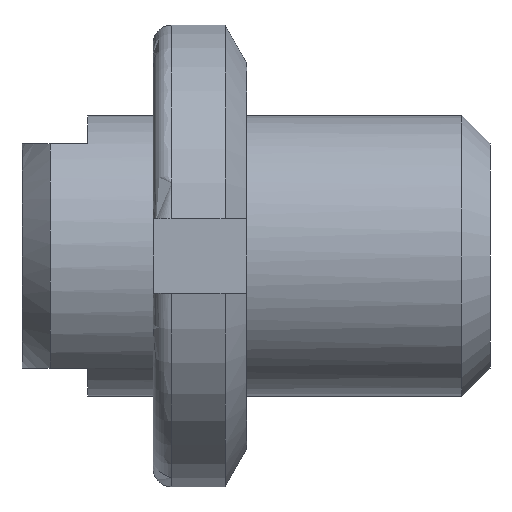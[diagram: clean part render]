
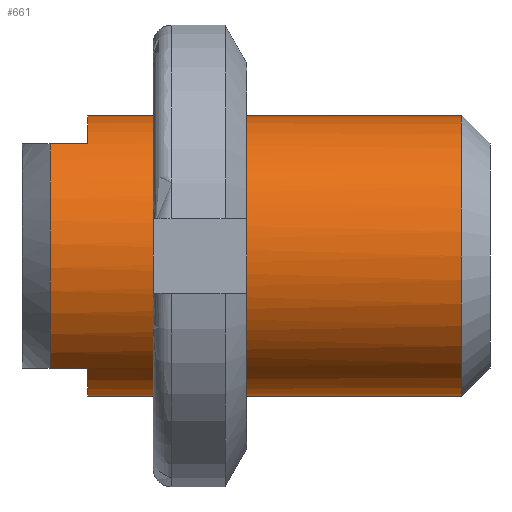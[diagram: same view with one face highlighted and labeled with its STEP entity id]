
A CAD part, front view. The second image highlights one B-rep face of the part: STEP entity #661.
In plain terms, the highlighted cylindrical face has radius 7.5 mm (diameter 15 mm), a full revolution.
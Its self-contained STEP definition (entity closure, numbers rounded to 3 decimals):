
#39=FACE_BOUND('',#144,.T.);
#51=CYLINDRICAL_SURFACE('',#716,7.5);
#66=CIRCLE('',#700,7.5);
#67=CIRCLE('',#703,7.5);
#68=CIRCLE('',#705,7.5);
#71=CIRCLE('',#709,7.5);
#74=CIRCLE('',#714,7.5);
#104=FACE_OUTER_BOUND('',#143,.T.);
#143=EDGE_LOOP('',(#467,#468,#469,#470,#471,#472,#473,#474));
#144=EDGE_LOOP('',(#475));
#183=LINE('',#968,#221);
#185=LINE('',#972,#223);
#186=LINE('',#985,#224);
#188=LINE('',#989,#226);
#221=VECTOR('',#776,2.);
#223=VECTOR('',#778,2.);
#224=VECTOR('',#785,2.);
#226=VECTOR('',#787,2.);
#279=VERTEX_POINT('',#962);
#281=VERTEX_POINT('',#967);
#282=VERTEX_POINT('',#969);
#283=VERTEX_POINT('',#971);
#284=VERTEX_POINT('',#979);
#286=VERTEX_POINT('',#984);
#287=VERTEX_POINT('',#986);
#288=VERTEX_POINT('',#988);
#291=VERTEX_POINT('',#1007);
#346=EDGE_CURVE('',#281,#279,#183,.T.);
#348=EDGE_CURVE('',#283,#282,#185,.T.);
#350=EDGE_CURVE('',#282,#281,#66,.T.);
#352=EDGE_CURVE('',#286,#284,#186,.T.);
#354=EDGE_CURVE('',#288,#287,#188,.T.);
#356=EDGE_CURVE('',#287,#286,#67,.T.);
#357=EDGE_CURVE('',#283,#284,#68,.T.);
#360=EDGE_CURVE('',#288,#279,#71,.T.);
#363=EDGE_CURVE('',#291,#291,#74,.T.);
#467=ORIENTED_EDGE('',*,*,#346,.T.);
#468=ORIENTED_EDGE('',*,*,#360,.F.);
#469=ORIENTED_EDGE('',*,*,#354,.T.);
#470=ORIENTED_EDGE('',*,*,#356,.T.);
#471=ORIENTED_EDGE('',*,*,#352,.T.);
#472=ORIENTED_EDGE('',*,*,#357,.F.);
#473=ORIENTED_EDGE('',*,*,#348,.T.);
#474=ORIENTED_EDGE('',*,*,#350,.T.);
#475=ORIENTED_EDGE('',*,*,#363,.F.);
#661=ADVANCED_FACE('',(#104,#39),#51,.T.);
#700=AXIS2_PLACEMENT_3D('',#977,#781,#782);
#703=AXIS2_PLACEMENT_3D('',#994,#790,#791);
#705=AXIS2_PLACEMENT_3D('',#996,#794,#795);
#709=AXIS2_PLACEMENT_3D('',#1000,#802,#803);
#714=AXIS2_PLACEMENT_3D('',#1008,#812,#813);
#716=AXIS2_PLACEMENT_3D('',#1011,#816,#817);
#776=DIRECTION('',(-1.,0.,0.));
#778=DIRECTION('',(1.,0.,0.));
#781=DIRECTION('center_axis',(1.,0.,0.));
#782=DIRECTION('ref_axis',(0.,1.,0.));
#785=DIRECTION('',(-1.,0.,0.));
#787=DIRECTION('',(1.,0.,0.));
#790=DIRECTION('center_axis',(1.,0.,0.));
#791=DIRECTION('ref_axis',(0.,1.,0.));
#794=DIRECTION('center_axis',(-1.,0.,0.));
#795=DIRECTION('ref_axis',(0.,-1.,0.));
#802=DIRECTION('center_axis',(-1.,0.,0.));
#803=DIRECTION('ref_axis',(0.,-1.,0.));
#812=DIRECTION('center_axis',(1.,0.,0.));
#813=DIRECTION('ref_axis',(0.,-1.,0.));
#816=DIRECTION('center_axis',(1.,0.,0.));
#817=DIRECTION('ref_axis',(0.,1.,0.));
#962=CARTESIAN_POINT('',(1.5,4.5,-6.));
#967=CARTESIAN_POINT('',(3.5,4.5,-6.));
#968=CARTESIAN_POINT('',(12.5,4.5,-6.));
#969=CARTESIAN_POINT('',(3.5,-4.5,-6.));
#971=CARTESIAN_POINT('',(1.5,-4.5,-6.));
#972=CARTESIAN_POINT('',(12.5,-4.5,-6.));
#977=CARTESIAN_POINT('Origin',(3.5,0.,0.));
#979=CARTESIAN_POINT('',(1.5,-4.5,6.));
#984=CARTESIAN_POINT('',(3.5,-4.5,6.));
#985=CARTESIAN_POINT('',(12.5,-4.5,6.));
#986=CARTESIAN_POINT('',(3.5,4.5,6.));
#988=CARTESIAN_POINT('',(1.5,4.5,6.));
#989=CARTESIAN_POINT('',(12.5,4.5,6.));
#994=CARTESIAN_POINT('Origin',(3.5,0.,0.));
#996=CARTESIAN_POINT('Origin',(1.5,0.,0.));
#1000=CARTESIAN_POINT('Origin',(1.5,0.,0.));
#1007=CARTESIAN_POINT('',(23.5,7.5,0.));
#1008=CARTESIAN_POINT('Origin',(23.5,0.,0.));
#1011=CARTESIAN_POINT('Origin',(12.5,0.,0.));
